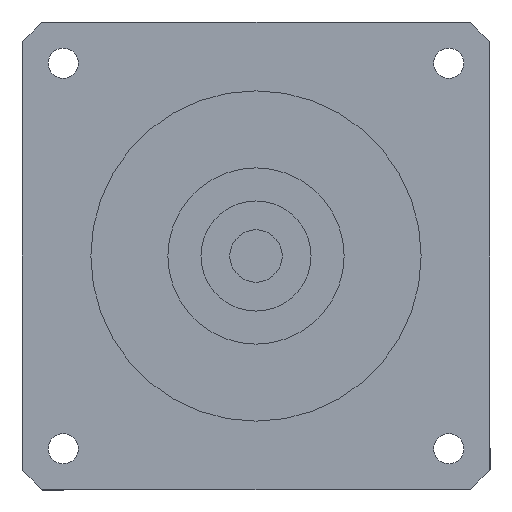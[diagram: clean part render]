
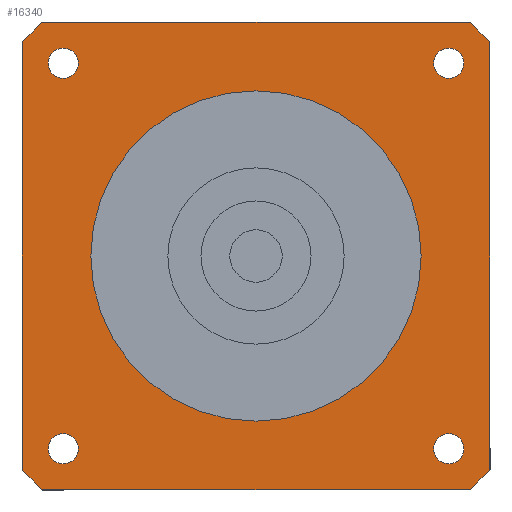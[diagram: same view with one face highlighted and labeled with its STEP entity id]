
A CAD part, left-side view. The second image highlights one B-rep face of the part: STEP entity #16340.
In plain terms, the highlighted planar face has unit normal (-1, 0, 0) as drawn and (0, 0, -1) by its records, which use the part's own axes.
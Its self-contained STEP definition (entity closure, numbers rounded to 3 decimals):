
#14500=CARTESIAN_POINT('',(-32.252,-35.002,-92.));
#14510=VERTEX_POINT('',#14500);
#14590=CARTESIAN_POINT('',(-37.752,-35.002,-92.));
#14600=VERTEX_POINT('',#14590);
#14630=CARTESIAN_POINT('',(-35.002,-35.002,-92.));
#14640=DIRECTION('',(0.,0.,-1.));
#14650=DIRECTION('',(0.,-1.,0.));
#14660=AXIS2_PLACEMENT_3D('',#14630,#14640,#14650);
#14670=CIRCLE('',#14660,2.75);
#14680=CARTESIAN_POINT('',(-35.002,-37.752,-92.));
#14690=VERTEX_POINT('',#14680);
#14700=EDGE_CURVE('',#14690,#14600,#14670,.T.);
#14720=EDGE_CURVE('',#14510,#14690,#14670,.T.);
#14770=CARTESIAN_POINT('',(-42.5,42.5,-92.));
#14780=DIRECTION('',(0.,0.,1.));
#14790=DIRECTION('',(-1.,0.,0.));
#14800=AXIS2_PLACEMENT_3D('',#14770,#14780,#14790);
#14810=PLANE('',#14800);
#14820=CARTESIAN_POINT('',(35.002,-35.002,-92.));
#14830=DIRECTION('',(0.,0.,-1.));
#14840=DIRECTION('',(1.,0.,0.));
#14850=AXIS2_PLACEMENT_3D('',#14820,#14830,#14840);
#14860=CIRCLE('',#14850,2.75);
#14870=CARTESIAN_POINT('',(37.752,-35.002,-92.));
#14880=VERTEX_POINT('',#14870);
#14890=CARTESIAN_POINT('',(35.002,-37.752,-92.));
#14900=VERTEX_POINT('',#14890);
#14910=EDGE_CURVE('',#14880,#14900,#14860,.T.);
#14920=ORIENTED_EDGE('',*,*,#14910,.F.);
#14930=CARTESIAN_POINT('',(35.002,-32.252,-92.));
#14940=VERTEX_POINT('',#14930);
#14950=EDGE_CURVE('',#14900,#14940,#14860,.T.);
#14960=ORIENTED_EDGE('',*,*,#14950,.F.);
#14970=EDGE_CURVE('',#14940,#14880,#14860,.T.);
#14980=ORIENTED_EDGE('',*,*,#14970,.F.);
#14990=EDGE_LOOP('',(#14980,#14960,#14920));
#15000=FACE_BOUND('',#14990,.T.);
#15010=CARTESIAN_POINT('',(35.002,35.002,-92.));
#15020=DIRECTION('',(0.,0.,-1.));
#15030=DIRECTION('',(0.,1.,0.));
#15040=AXIS2_PLACEMENT_3D('',#15010,#15020,#15030);
#15050=CIRCLE('',#15040,2.75);
#15060=CARTESIAN_POINT('',(35.002,37.752,-92.));
#15070=VERTEX_POINT('',#15060);
#15080=CARTESIAN_POINT('',(37.752,35.002,-92.));
#15090=VERTEX_POINT('',#15080);
#15100=EDGE_CURVE('',#15070,#15090,#15050,.T.);
#15110=ORIENTED_EDGE('',*,*,#15100,.F.);
#15120=CARTESIAN_POINT('',(32.252,35.002,-92.));
#15130=VERTEX_POINT('',#15120);
#15140=EDGE_CURVE('',#15090,#15130,#15050,.T.);
#15150=ORIENTED_EDGE('',*,*,#15140,.F.);
#15160=EDGE_CURVE('',#15130,#15070,#15050,.T.);
#15170=ORIENTED_EDGE('',*,*,#15160,.F.);
#15180=EDGE_LOOP('',(#15170,#15150,#15110));
#15190=FACE_BOUND('',#15180,.T.);
#15200=CARTESIAN_POINT('',(-35.002,35.002,-92.));
#15210=DIRECTION('',(0.,0.,-1.));
#15220=DIRECTION('',(-1.,0.,0.));
#15230=AXIS2_PLACEMENT_3D('',#15200,#15210,#15220);
#15240=CIRCLE('',#15230,2.75);
#15250=CARTESIAN_POINT('',(-37.752,35.002,-92.));
#15260=VERTEX_POINT('',#15250);
#15270=CARTESIAN_POINT('',(-35.002,37.752,-92.));
#15280=VERTEX_POINT('',#15270);
#15290=EDGE_CURVE('',#15260,#15280,#15240,.T.);
#15300=ORIENTED_EDGE('',*,*,#15290,.F.);
#15310=CARTESIAN_POINT('',(-35.002,32.252,-92.));
#15320=VERTEX_POINT('',#15310);
#15330=EDGE_CURVE('',#15280,#15320,#15240,.T.);
#15340=ORIENTED_EDGE('',*,*,#15330,.F.);
#15350=EDGE_CURVE('',#15320,#15260,#15240,.T.);
#15360=ORIENTED_EDGE('',*,*,#15350,.F.);
#15370=EDGE_LOOP('',(#15360,#15340,#15300));
#15380=FACE_BOUND('',#15370,.T.);
#15390=ORIENTED_EDGE('',*,*,#14700,.F.);
#15400=EDGE_CURVE('',#14600,#14510,#14670,.T.);
#15410=ORIENTED_EDGE('',*,*,#15400,.F.);
#15420=ORIENTED_EDGE('',*,*,#14720,.F.);
#15430=EDGE_LOOP('',(#15420,#15410,#15390));
#15440=FACE_BOUND('',#15430,.T.);
#15450=CARTESIAN_POINT('',(0.,0.,
-92.));
#15460=DIRECTION('',(0.,0.,1.));
#15470=DIRECTION('',(0.,-1.,0.));
#15480=AXIS2_PLACEMENT_3D('',#15450,#15460,#15470);
#15490=CIRCLE('',#15480,57.5);
#15500=CARTESIAN_POINT('',(-42.5,-38.73,-92.));
#15510=VERTEX_POINT('',#15500);
#15520=CARTESIAN_POINT('',(-38.73,-42.5,-92.));
#15530=VERTEX_POINT('',#15520);
#15540=EDGE_CURVE('',#15510,#15530,#15490,.T.);
#15550=ORIENTED_EDGE('',*,*,#15540,.F.);
#15560=CARTESIAN_POINT('',(-42.5,-42.5,-92.));
#15570=DIRECTION('',(1.,0.,0.));
#15580=VECTOR('',#15570,1000.);
#15590=LINE('',#15560,#15580);
#15600=CARTESIAN_POINT('',(38.73,-42.5,-92.));
#15610=VERTEX_POINT('',#15600);
#15620=EDGE_CURVE('',#15530,#15610,#15590,.T.);
#15630=ORIENTED_EDGE('',*,*,#15620,.F.);
#15640=CARTESIAN_POINT('',(0.,0.,
-92.));
#15650=DIRECTION('',(0.,0.,1.));
#15660=DIRECTION('',(0.,-1.,0.));
#15670=AXIS2_PLACEMENT_3D('',#15640,#15650,#15660);
#15680=CIRCLE('',#15670,57.5);
#15690=CARTESIAN_POINT('',(42.5,-38.73,-92.));
#15700=VERTEX_POINT('',#15690);
#15710=EDGE_CURVE('',#15610,#15700,#15680,.T.);
#15720=ORIENTED_EDGE('',*,*,#15710,.F.);
#15730=CARTESIAN_POINT('',(42.5,-42.5,-92.));
#15740=DIRECTION('',(0.,1.,0.));
#15750=VECTOR('',#15740,1000.);
#15760=LINE('',#15730,#15750);
#15770=CARTESIAN_POINT('',(42.5,38.73,-92.));
#15780=VERTEX_POINT('',#15770);
#15790=EDGE_CURVE('',#15700,#15780,#15760,.T.);
#15800=ORIENTED_EDGE('',*,*,#15790,.F.);
#15810=CARTESIAN_POINT('',(0.,0.,
-92.));
#15820=DIRECTION('',(0.,0.,1.));
#15830=DIRECTION('',(0.,-1.,0.));
#15840=AXIS2_PLACEMENT_3D('',#15810,#15820,#15830);
#15850=CIRCLE('',#15840,57.5);
#15860=CARTESIAN_POINT('',(38.73,42.5,-92.));
#15870=VERTEX_POINT('',#15860);
#15880=EDGE_CURVE('',#15780,#15870,#15850,.T.);
#15890=ORIENTED_EDGE('',*,*,#15880,.F.);
#15900=CARTESIAN_POINT('',(42.5,42.5,-92.));
#15910=DIRECTION('',(-1.,0.,0.));
#15920=VECTOR('',#15910,1000.);
#15930=LINE('',#15900,#15920);
#15940=CARTESIAN_POINT('',(-38.73,42.5,-92.));
#15950=VERTEX_POINT('',#15940);
#15960=EDGE_CURVE('',#15870,#15950,#15930,.T.);
#15970=ORIENTED_EDGE('',*,*,#15960,.F.);
#15980=CARTESIAN_POINT('',(0.,0.,
-92.));
#15990=DIRECTION('',(0.,0.,1.));
#16000=DIRECTION('',(0.,-1.,0.));
#16010=AXIS2_PLACEMENT_3D('',#15980,#15990,#16000);
#16020=CIRCLE('',#16010,57.5);
#16030=CARTESIAN_POINT('',(-42.5,38.73,-92.));
#16040=VERTEX_POINT('',#16030);
#16050=EDGE_CURVE('',#15950,#16040,#16020,.T.);
#16060=ORIENTED_EDGE('',*,*,#16050,.F.);
#16070=CARTESIAN_POINT('',(-42.5,42.5,-92.));
#16080=DIRECTION('',(0.,-1.,0.));
#16090=VECTOR('',#16080,1000.);
#16100=LINE('',#16070,#16090);
#16110=EDGE_CURVE('',#16040,#15510,#16100,.T.);
#16120=ORIENTED_EDGE('',*,*,#16110,.F.);
#16130=EDGE_LOOP('',(#16120,#16060,#15970,#15890,#15800,#15720,#15630,
#15550));
#16140=FACE_OUTER_BOUND('',#16130,.T.);
#16150=CARTESIAN_POINT('',(0.,0.,
-92.));
#16160=DIRECTION('',(0.,0.,1.));
#16170=DIRECTION('',(0.,-1.,0.));
#16180=AXIS2_PLACEMENT_3D('',#16150,#16160,#16170);
#16190=CIRCLE('',#16180,30.);
#16200=CARTESIAN_POINT('',(30.,0.,-92.));
#16210=VERTEX_POINT('',#16200);
#16220=CARTESIAN_POINT('',(-30.,0.,-92.));
#16230=VERTEX_POINT('',#16220);
#16240=EDGE_CURVE('',#16210,#16230,#16190,.T.);
#16250=ORIENTED_EDGE('',*,*,#16240,.T.);
#16260=CARTESIAN_POINT('',(0.,-30.,-92.));
#16270=VERTEX_POINT('',#16260);
#16280=EDGE_CURVE('',#16270,#16210,#16190,.T.);
#16290=ORIENTED_EDGE('',*,*,#16280,.T.);
#16300=EDGE_CURVE('',#16230,#16270,#16190,.T.);
#16310=ORIENTED_EDGE('',*,*,#16300,.T.);
#16320=EDGE_LOOP('',(#16310,#16290,#16250));
#16330=FACE_BOUND('',#16320,.T.);
#16340=ADVANCED_FACE('',(#15000,#15190,#15380,#15440,#16140,#16330),
#14810,.F.);
